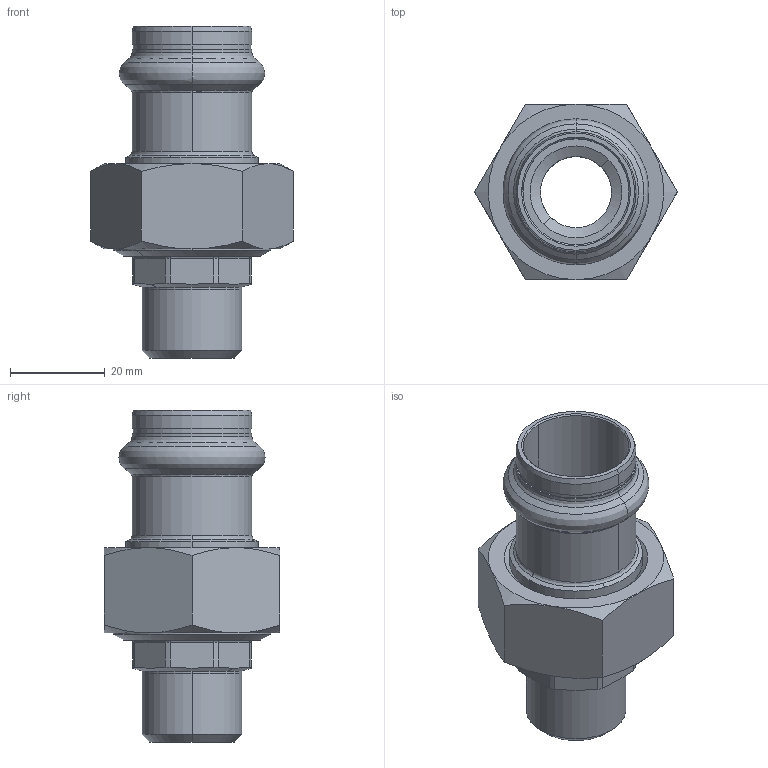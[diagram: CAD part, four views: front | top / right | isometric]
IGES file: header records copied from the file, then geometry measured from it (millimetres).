
Start section: Elysium IGES Interface
Global section: file name: F:\3d modellen sudo\S-Pr VP\SP6331GV\6331GVW2212.igs; native system: CoCreate Modeling 17.00A  17-Jun-2010; preprocessor: CoCreate IGES_3D V2.2; author: Unknown; organization: Unknown; date: 20130128.155652; units: millimetre
Bounding box: 42.72 x 37 x 70 mm (x, y, z)
Volume: 24993.5 mm3; surface area: 16534.9 mm2
Topology: 3 solids, 3 shells, 145 faces, 348 edges, 210 vertices
Faces by surface type: bspline 145
